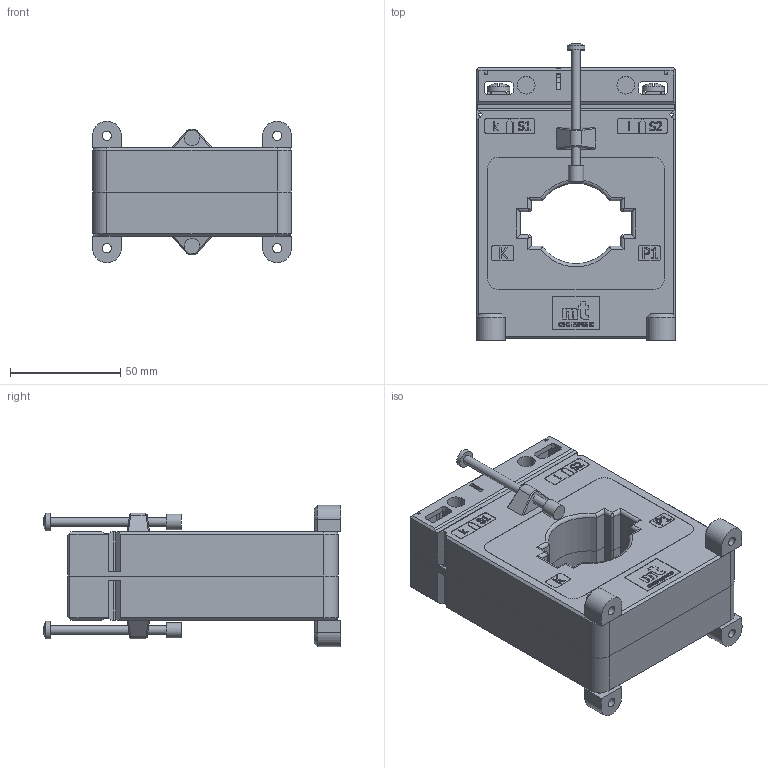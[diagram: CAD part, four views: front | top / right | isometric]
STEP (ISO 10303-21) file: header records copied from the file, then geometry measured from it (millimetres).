
FILE_DESCRIPTION(/* description */ (''),/* implementation_level */ '2;1');
FILE_NAME(/* name */ 'CLB 5.91.step',/* time_stamp */ '2024-10-12T10:10:35+02:00',/* author */ ('peter'),/* organization */ (''),/* preprocessor_version */ 'ST-DEVELOPER v20',/* originating_system */ 'Autodesk Inventor 2025',/* authorisation */ '');
FILE_SCHEMA (('AUTOMOTIVE_DESIGN { 1 0 10303 214 3 1 1 }'));
Length unit declared in the file: millimetre
Products named in the file (11): Current transformer CLB 5.91; Front plastic case CLB 5.91; Back plastic case CLB 5.91; Tape label CLB 5.91; Secondary terminal 28 CLB; Secondary terminal cover 37B CLB; Plastic mounting foot; Rivet 20; Insulating cap; Screw M5x8; Screw 4x60
Assembly tree (23 placements, depth 2):
  Current transformer CLB 5.91
    Front plastic case CLB 5.91
    Back plastic case CLB 5.91
    Tape label CLB 5.91
    Secondary terminal 28 CLB  x2
    Secondary terminal cover 37B CLB  x2
    Plastic mounting foot  x4
    Rivet 20  x4
    Insulating cap  x2
    Screw M5x8  x4
    Screw 4x60  x2
Bounding box: 90 x 134.47 x 64 mm (x, y, z)
Volume: 376154.3 mm3; surface area: 85943.3 mm2
Topology: 23 solids, 27 shells, 1834 faces, 4900 edges, 3210 vertices
Faces by surface type: plane 1143, bspline 393, cylinder 238, cone 38, torus 12, sphere 10
Full cylindrical faces by diameter (mm): 1.5 x4, 2.4 x4, 2.95 x2, 3 x6, 3.5 x2, 4 x8, 4.1 x4, 4.134 x4, 4.2 x4, 4.5 x4, 5 x8, 7 x2, 8 x18, 9 x4, 10 x4
Entity records: 51141 total; most frequent: CARTESIAN_POINT 14050, ORIENTED_EDGE 8340, DIRECTION 6075, EDGE_CURVE 4170, LINE 2995, VECTOR 2995, VERTEX_POINT 2741, EDGE_LOOP 1687
